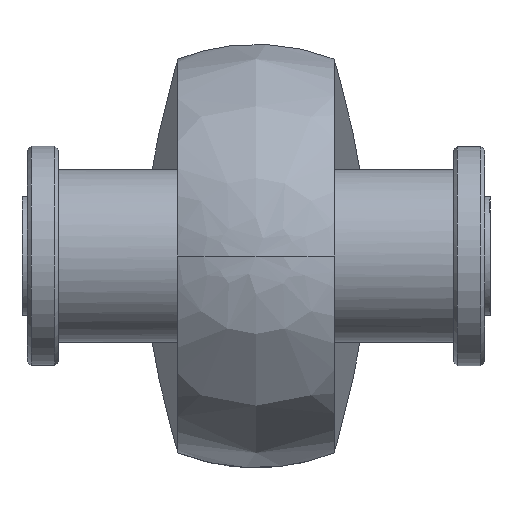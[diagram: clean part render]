
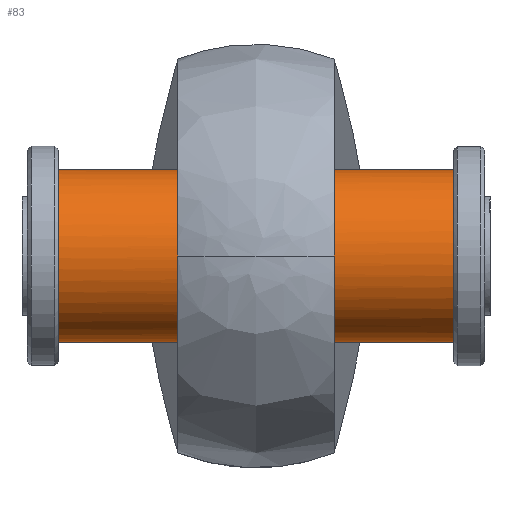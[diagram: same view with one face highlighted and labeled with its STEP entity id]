
A CAD part, left-side view. The second image highlights one B-rep face of the part: STEP entity #83.
In plain terms, the highlighted cylindrical face has radius 11 mm (diameter 22 mm), a full revolution.
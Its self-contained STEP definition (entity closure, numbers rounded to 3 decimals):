
#83=ADVANCED_FACE('',(#157),#1214,.T.);
#157=FACE_OUTER_BOUND('',#238,.T.);
#238=EDGE_LOOP('',(#506,#507,#508,#509));
#506=ORIENTED_EDGE('',*,*,#774,.T.);
#507=ORIENTED_EDGE('',*,*,#776,.T.);
#508=ORIENTED_EDGE('',*,*,#775,.T.);
#509=ORIENTED_EDGE('',*,*,#776,.F.);
#774=EDGE_CURVE('',#1128,#1128,#983,.T.);
#775=EDGE_CURVE('',#1129,#1129,#984,.T.);
#776=EDGE_CURVE('',#1128,#1129,#897,.T.);
#897=B_SPLINE_CURVE_WITH_KNOTS('',1,(#2248,#2249),.UNSPECIFIED.,.F.,.F.,
(2,2),(5.157,55.531),.UNSPECIFIED.);
#983=(
BOUNDED_CURVE()
B_SPLINE_CURVE(2,(#2230,#2231,#2232,#2233,#2234,#2235,#2236,#2237,#2238),
 .UNSPECIFIED.,.T.,.F.)
B_SPLINE_CURVE_WITH_KNOTS((3,2,2,2,3),(0.,17.279,34.558,
51.836,69.115),.UNSPECIFIED.)
CURVE()
GEOMETRIC_REPRESENTATION_ITEM()
RATIONAL_B_SPLINE_CURVE((1.,0.707,1.,0.707,1.,0.707,
1.,0.707,1.))
REPRESENTATION_ITEM('')
);
#984=(
BOUNDED_CURVE()
B_SPLINE_CURVE(2,(#2239,#2240,#2241,#2242,#2243,#2244,#2245,#2246,#2247),
 .UNSPECIFIED.,.T.,.F.)
B_SPLINE_CURVE_WITH_KNOTS((3,2,2,2,3),(0.,17.279,34.558,
51.836,69.115),.UNSPECIFIED.)
CURVE()
GEOMETRIC_REPRESENTATION_ITEM()
RATIONAL_B_SPLINE_CURVE((1.,0.707,1.,0.707,1.,0.707,
1.,0.707,1.))
REPRESENTATION_ITEM('')
);
#1128=VERTEX_POINT('',#2182);
#1129=VERTEX_POINT('',#2183);
#1214=CYLINDRICAL_SURFACE('',#1366,11.);
#1366=AXIS2_PLACEMENT_3D('',#2172,#1412,$);
#1412=DIRECTION('',(0.,-1.,0.));
#2172=CARTESIAN_POINT('',(0.,0.,0.));
#2182=CARTESIAN_POINT('',(11.,25.187,0.));
#2183=CARTESIAN_POINT('',(11.,-25.187,0.));
#2230=CARTESIAN_POINT('',(11.,25.187,0.));
#2231=CARTESIAN_POINT('',(11.,25.187,11.));
#2232=CARTESIAN_POINT('',(0.,25.187,11.));
#2233=CARTESIAN_POINT('',(-11.,25.187,11.));
#2234=CARTESIAN_POINT('',(-11.,25.187,0.));
#2235=CARTESIAN_POINT('',(-11.,25.187,-11.));
#2236=CARTESIAN_POINT('',(0.,25.187,-11.));
#2237=CARTESIAN_POINT('',(11.,25.187,-11.));
#2238=CARTESIAN_POINT('',(11.,25.187,0.));
#2239=CARTESIAN_POINT('',(11.,-25.187,0.));
#2240=CARTESIAN_POINT('',(11.,-25.187,-11.));
#2241=CARTESIAN_POINT('',(0.,-25.187,-11.));
#2242=CARTESIAN_POINT('',(-11.,-25.187,-11.));
#2243=CARTESIAN_POINT('',(-11.,-25.187,0.));
#2244=CARTESIAN_POINT('',(-11.,-25.187,11.));
#2245=CARTESIAN_POINT('',(0.,-25.187,11.));
#2246=CARTESIAN_POINT('',(11.,-25.187,11.));
#2247=CARTESIAN_POINT('',(11.,-25.187,0.));
#2248=CARTESIAN_POINT('',(11.,25.187,0.));
#2249=CARTESIAN_POINT('',(11.,-25.187,0.));
